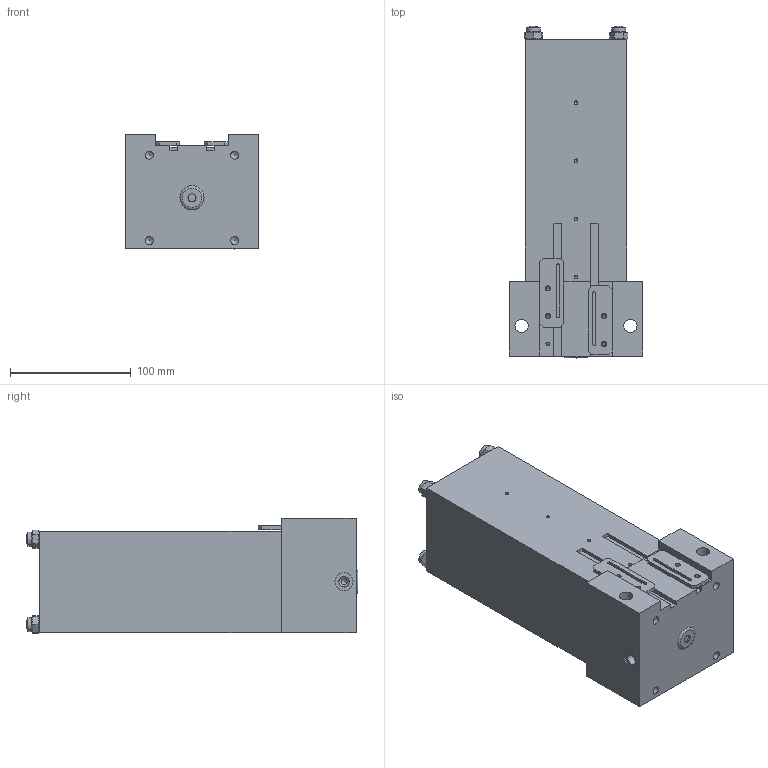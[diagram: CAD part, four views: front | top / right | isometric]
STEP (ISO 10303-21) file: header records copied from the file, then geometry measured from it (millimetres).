
FILE_DESCRIPTION((''),'2;1');
FILE_NAME('C:\VaultWork\Zeichnungen\Maßblätter\Multizylinder\M 75\M75-30\M01854-4-0 Maßblatt Multizylinder M75-5-30 Berührungslose Abfrage.stp','2014-01-23T16:42:52',('Sergeew'),(''),'Autodesk Inventor 2012','Autodesk Inventor 2012','');
FILE_SCHEMA(('AUTOMOTIVE_DESIGN { 1 0 10303 214 1 1 1 1 }'));
Length unit declared in the file: millimetre
Products named in the file (1): M01854-4-0 Maßblatt Multizylinder M75-5-30 Berührungslose Abfrage
Bounding box: 110 x 274.5 x 95.36 mm (x, y, z)
Volume: 2001657.5 mm3; surface area: 131803.7 mm2
Topology: 1 solids, 6 shells, 185 faces, 446 edges, 288 vertices
Faces by surface type: plane 103, cylinder 45, cone 36, torus 1
Full cylindrical faces by diameter (mm): 3 x4, 3.242 x6, 4.3 x4, 5 x1, 6.647 x5, 8 x8, 8.566 x2, 9 x4, 11 x2, 11.6 x4, 15 x1
Entity records: 4805 total; most frequent: CARTESIAN_POINT 866, DIRECTION 764, ORIENTED_EDGE 664, EDGE_CURVE 332, AXIS2_PLACEMENT_3D 294, EDGE_LOOP 290, VERTEX_POINT 252, FACE_OUTER_BOUND 185
